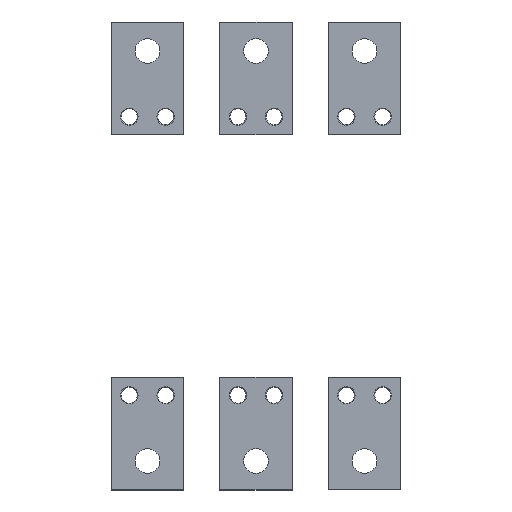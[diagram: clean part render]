
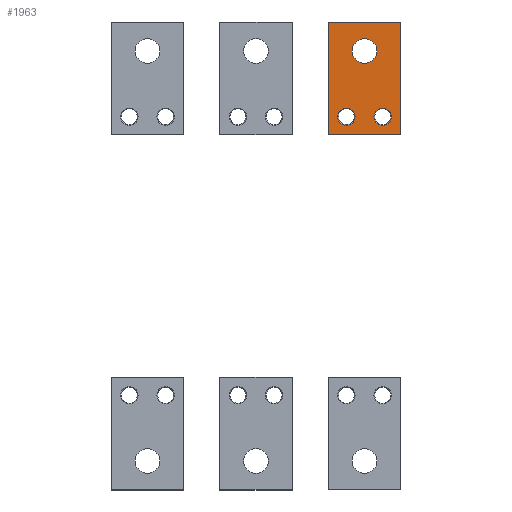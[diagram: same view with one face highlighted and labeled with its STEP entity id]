
A CAD part, top view. The second image highlights one B-rep face of the part: STEP entity #1963.
In plain terms, the highlighted planar face has unit normal (0, 0, 1).
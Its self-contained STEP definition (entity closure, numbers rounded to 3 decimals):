
#101 = CARTESIAN_POINT ( 'NONE',  ( 68.5, 96.2, 37.75 ) ) ;
#109 = CARTESIAN_POINT ( 'NONE',  ( 62.5, 96.2, 37.75 ) ) ;
#121 = DIRECTION ( 'NONE',  ( 0., 0., 1. ) ) ;
#125 = DIRECTION ( 'NONE',  ( 0., 0., -1. ) ) ;
#217 = FACE_BOUND ( 'NONE', #296, .T. ) ;
#232 = EDGE_LOOP ( 'NONE', ( #2023, #1711 ) ) ;
#278 = VERTEX_POINT ( 'NONE', #1943 ) ;
#290 = EDGE_CURVE ( 'NONE', #2250, #1972, #2533, .T. ) ;
#296 = EDGE_LOOP ( 'NONE', ( #3019, #2730 ) ) ;
#410 = VERTEX_POINT ( 'NONE', #1991 ) ;
#444 = DIRECTION ( 'NONE',  ( -1., 0., 0. ) ) ;
#463 = EDGE_CURVE ( 'NONE', #410, #2250, #1065, .T. ) ;
#509 = LINE ( 'NONE', #3578, #1788 ) ;
#541 = CARTESIAN_POINT ( 'NONE',  ( 50., 83.7, 37.75 ) ) ;
#703 = CARTESIAN_POINT ( 'NONE',  ( 75., 141.7, 37.75 ) ) ;
#739 = CARTESIAN_POINT ( 'NONE',  ( 100., 83.7, 37.75 ) ) ;
#812 = EDGE_CURVE ( 'NONE', #3865, #1273, #2024, .T. ) ;
#816 = EDGE_CURVE ( 'NONE', #278, #1942, #3520, .T. ) ;
#817 = FACE_BOUND ( 'NONE', #3700, .T. ) ;
#839 = EDGE_CURVE ( 'NONE', #1273, #3865, #4158, .T. ) ;
#997 = ORIENTED_EDGE ( 'NONE', *, *, #4045, .T. ) ;
#1065 = LINE ( 'NONE', #3049, #2683 ) ;
#1183 = DIRECTION ( 'NONE',  ( -1., 0., 0. ) ) ;
#1273 = VERTEX_POINT ( 'NONE', #2616 ) ;
#1277 = DIRECTION ( 'NONE',  ( 0., 0., -1. ) ) ;
#1281 = CIRCLE ( 'NONE', #1411, 8.5 ) ;
#1380 = EDGE_LOOP ( 'NONE', ( #997, #3497, #3713, #1485 ) ) ;
#1411 = AXIS2_PLACEMENT_3D ( 'NONE', #703, #2096, #3085 ) ;
#1461 = VERTEX_POINT ( 'NONE', #739 ) ;
#1485 = ORIENTED_EDGE ( 'NONE', *, *, #4055, .T. ) ;
#1495 = DIRECTION ( 'NONE',  ( -1., 0., 0. ) ) ;
#1599 = DIRECTION ( 'NONE',  ( 0., 1., 0. ) ) ;
#1624 = PLANE ( 'NONE',  #3412 ) ;
#1711 = ORIENTED_EDGE ( 'NONE', *, *, #2644, .F. ) ;
#1774 = CARTESIAN_POINT ( 'NONE',  ( 62.5, 96.2, 37.75 ) ) ;
#1788 = VECTOR ( 'NONE', #2939, 1000. ) ;
#1789 = DIRECTION ( 'NONE',  ( -1., 0., 0. ) ) ;
#1841 = FACE_BOUND ( 'NONE', #232, .T. ) ;
#1934 = DIRECTION ( 'NONE',  ( -1., 0., 0. ) ) ;
#1942 = VERTEX_POINT ( 'NONE', #2287 ) ;
#1943 = CARTESIAN_POINT ( 'NONE',  ( 83.5, 141.7, 37.75 ) ) ;
#1963 = ADVANCED_FACE ( 'NONE', ( #217, #817, #2816, #1841 ), #1624, .T. ) ;
#1972 = VERTEX_POINT ( 'NONE', #3284 ) ;
#1991 = CARTESIAN_POINT ( 'NONE',  ( 100., 161.7, 37.75 ) ) ;
#2023 = ORIENTED_EDGE ( 'NONE', *, *, #816, .F. ) ;
#2024 = CIRCLE ( 'NONE', #2664, 6. ) ;
#2039 = CIRCLE ( 'NONE', #3121, 6. ) ;
#2060 = DIRECTION ( 'NONE',  ( -1., 0., 0. ) ) ;
#2076 = EDGE_CURVE ( 'NONE', #3981, #3590, #2039, .T. ) ;
#2096 = DIRECTION ( 'NONE',  ( 0., 0., 1. ) ) ;
#2116 = ORIENTED_EDGE ( 'NONE', *, *, #3372, .T. ) ;
#2168 = CARTESIAN_POINT ( 'NONE',  ( 75., 141.7, 37.75 ) ) ;
#2250 = VERTEX_POINT ( 'NONE', #2688 ) ;
#2272 = CARTESIAN_POINT ( 'NONE',  ( 100., 83.7, 37.75 ) ) ;
#2277 = AXIS2_PLACEMENT_3D ( 'NONE', #2168, #121, #3184 ) ;
#2287 = CARTESIAN_POINT ( 'NONE',  ( 66.5, 141.7, 37.75 ) ) ;
#2491 = AXIS2_PLACEMENT_3D ( 'NONE', #109, #125, #1183 ) ;
#2533 = LINE ( 'NONE', #541, #2851 ) ;
#2616 = CARTESIAN_POINT ( 'NONE',  ( 81.5, 96.2, 37.75 ) ) ;
#2644 = EDGE_CURVE ( 'NONE', #1942, #278, #1281, .T. ) ;
#2664 = AXIS2_PLACEMENT_3D ( 'NONE', #2836, #2854, #1495 ) ;
#2683 = VECTOR ( 'NONE', #2060, 1000. ) ;
#2688 = CARTESIAN_POINT ( 'NONE',  ( 50., 161.7, 37.75 ) ) ;
#2730 = ORIENTED_EDGE ( 'NONE', *, *, #812, .T. ) ;
#2755 = CARTESIAN_POINT ( 'NONE',  ( 100., 161.7, 37.75 ) ) ;
#2816 = FACE_OUTER_BOUND ( 'NONE', #1380, .T. ) ;
#2819 = CARTESIAN_POINT ( 'NONE',  ( 87.5, 96.2, 37.75 ) ) ;
#2836 = CARTESIAN_POINT ( 'NONE',  ( 87.5, 96.2, 37.75 ) ) ;
#2851 = VECTOR ( 'NONE', #3244, 1000. ) ;
#2854 = DIRECTION ( 'NONE',  ( 0., 0., -1. ) ) ;
#2939 = DIRECTION ( 'NONE',  ( 1., 0., 0. ) ) ;
#3019 = ORIENTED_EDGE ( 'NONE', *, *, #839, .T. ) ;
#3049 = CARTESIAN_POINT ( 'NONE',  ( 100., 161.7, 37.75 ) ) ;
#3085 = DIRECTION ( 'NONE',  ( -1., 0., 0. ) ) ;
#3121 = AXIS2_PLACEMENT_3D ( 'NONE', #1774, #3447, #444 ) ;
#3184 = DIRECTION ( 'NONE',  ( -1., 0., 0. ) ) ;
#3206 = CIRCLE ( 'NONE', #2491, 6. ) ;
#3244 = DIRECTION ( 'NONE',  ( 0., -1., 0. ) ) ;
#3284 = CARTESIAN_POINT ( 'NONE',  ( 50., 83.7, 37.75 ) ) ;
#3340 = VECTOR ( 'NONE', #1599, 1000. ) ;
#3372 = EDGE_CURVE ( 'NONE', #3590, #3981, #3206, .T. ) ;
#3412 = AXIS2_PLACEMENT_3D ( 'NONE', #2755, #4147, #1789 ) ;
#3447 = DIRECTION ( 'NONE',  ( 0., 0., -1. ) ) ;
#3462 = CARTESIAN_POINT ( 'NONE',  ( 93.5, 96.2, 37.75 ) ) ;
#3497 = ORIENTED_EDGE ( 'NONE', *, *, #463, .T. ) ;
#3520 = CIRCLE ( 'NONE', #2277, 8.5 ) ;
#3578 = CARTESIAN_POINT ( 'NONE',  ( 100., 83.7, 37.75 ) ) ;
#3590 = VERTEX_POINT ( 'NONE', #4319 ) ;
#3599 = ORIENTED_EDGE ( 'NONE', *, *, #2076, .T. ) ;
#3700 = EDGE_LOOP ( 'NONE', ( #2116, #3599 ) ) ;
#3713 = ORIENTED_EDGE ( 'NONE', *, *, #290, .T. ) ;
#3787 = AXIS2_PLACEMENT_3D ( 'NONE', #2819, #1277, #1934 ) ;
#3865 = VERTEX_POINT ( 'NONE', #3462 ) ;
#3981 = VERTEX_POINT ( 'NONE', #101 ) ;
#4045 = EDGE_CURVE ( 'NONE', #1461, #410, #4351, .T. ) ;
#4055 = EDGE_CURVE ( 'NONE', #1972, #1461, #509, .T. ) ;
#4147 = DIRECTION ( 'NONE',  ( 0., 0., 1. ) ) ;
#4158 = CIRCLE ( 'NONE', #3787, 6. ) ;
#4319 = CARTESIAN_POINT ( 'NONE',  ( 56.5, 96.2, 37.75 ) ) ;
#4351 = LINE ( 'NONE', #2272, #3340 ) ;
